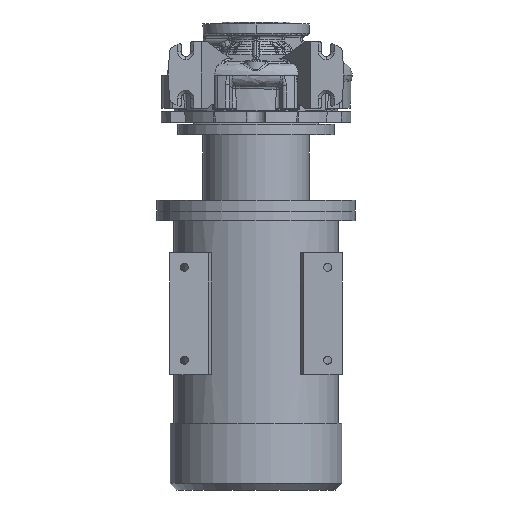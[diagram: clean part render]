
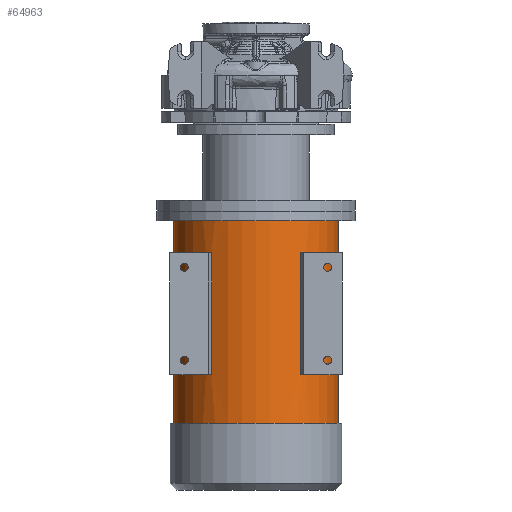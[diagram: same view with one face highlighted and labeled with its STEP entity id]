
A CAD part, front view. The second image highlights one B-rep face of the part: STEP entity #64963.
In plain terms, the highlighted cylindrical face has radius 124.5 mm (diameter 249 mm), a partial arc.
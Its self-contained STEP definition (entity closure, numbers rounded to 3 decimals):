
#746 = DIRECTION ( 'NONE',  ( 0., 0., -1. ) ) ;
#862 = DIRECTION ( 'NONE',  ( 0., 0., 1. ) ) ;
#1845 = DIRECTION ( 'NONE',  ( -1., 0., 0. ) ) ;
#2244 = LINE ( 'NONE', #14990, #48068 ) ;
#2531 = VERTEX_POINT ( 'NONE', #62478 ) ;
#2737 = EDGE_CURVE ( 'NONE', #36674, #21163, #37242, .T. ) ;
#2886 = VERTEX_POINT ( 'NONE', #13954 ) ;
#3118 = DIRECTION ( 'NONE',  ( 1., 0., 0. ) ) ;
#3438 = DIRECTION ( 'NONE',  ( 0., 0., -1. ) ) ;
#4166 = LINE ( 'NONE', #55269, #51640 ) ;
#4749 = CIRCLE ( 'NONE', #48287, 124.5 ) ;
#5179 = DIRECTION ( 'NONE',  ( -1., 0., 0. ) ) ;
#5467 = VECTOR ( 'NONE', #63657, 1000. ) ;
#6624 = ORIENTED_EDGE ( 'NONE', *, *, #27804, .T. ) ;
#7685 = CARTESIAN_POINT ( 'NONE',  ( -124.5, 0., -525.3 ) ) ;
#7838 = VERTEX_POINT ( 'NONE', #66437 ) ;
#8442 = CARTESIAN_POINT ( 'NONE',  ( 124.5, 0., -220.3 ) ) ;
#10624 = CARTESIAN_POINT ( 'NONE',  ( 0., 0., -626.3 ) ) ;
#10751 = DIRECTION ( 'NONE',  ( 0., 0., -1. ) ) ;
#10934 = ORIENTED_EDGE ( 'NONE', *, *, #63069, .T. ) ;
#11449 = VERTEX_POINT ( 'NONE', #7685 ) ;
#11667 = CYLINDRICAL_SURFACE ( 'NONE', #68860, 124.5 ) ;
#11730 = FACE_BOUND ( 'NONE', #24289, .T. ) ;
#11930 = AXIS2_PLACEMENT_3D ( 'NONE', #68408, #3438, #24752 ) ;
#13268 = CARTESIAN_POINT ( 'NONE',  ( -124.5, 0., -220.3 ) ) ;
#13455 = FACE_OUTER_BOUND ( 'NONE', #25175, .T. ) ;
#13954 = CARTESIAN_POINT ( 'NONE',  ( -75.873, -98.709, -268.3 ) ) ;
#14988 = ORIENTED_EDGE ( 'NONE', *, *, #27651, .F. ) ;
#14990 = CARTESIAN_POINT ( 'NONE',  ( 66.829, -105.044, -626.3 ) ) ;
#15549 = CARTESIAN_POINT ( 'NONE',  ( -75.873, -98.709, -452.3 ) ) ;
#15846 = DIRECTION ( 'NONE',  ( 0., 0., -1. ) ) ;
#16797 = CIRCLE ( 'NONE', #40285, 124.5 ) ;
#17448 = DIRECTION ( 'NONE',  ( 0., 0., -1. ) ) ;
#17953 = DIRECTION ( 'NONE',  ( 0., 0., -1. ) ) ;
#17989 = CIRCLE ( 'NONE', #11930, 124.5 ) ;
#21163 = VERTEX_POINT ( 'NONE', #68316 ) ;
#22723 = VERTEX_POINT ( 'NONE', #36508 ) ;
#23135 = EDGE_CURVE ( 'NONE', #21163, #22723, #36041, .T. ) ;
#23969 = CARTESIAN_POINT ( 'NONE',  ( 0., 0., -268.3 ) ) ;
#24289 = EDGE_LOOP ( 'NONE', ( #62110, #6624, #54007, #61715 ) ) ;
#24752 = DIRECTION ( 'NONE',  ( -1., 0., 0. ) ) ;
#25175 = EDGE_LOOP ( 'NONE', ( #55229, #59091, #10934, #58227 ) ) ;
#26128 = FACE_BOUND ( 'NONE', #49926, .T. ) ;
#27087 = CARTESIAN_POINT ( 'NONE',  ( -124.5, 0., -626.3 ) ) ;
#27651 = EDGE_CURVE ( 'NONE', #7838, #22723, #59153, .T. ) ;
#27700 = DIRECTION ( 'NONE',  ( -1., 0., 0. ) ) ;
#27739 = EDGE_CURVE ( 'NONE', #2886, #70107, #64262, .T. ) ;
#27804 = EDGE_CURVE ( 'NONE', #59007, #70107, #16797, .T. ) ;
#28624 = CARTESIAN_POINT ( 'NONE',  ( -66.829, -105.044, -452.3 ) ) ;
#33844 = CARTESIAN_POINT ( 'NONE',  ( 0., 0., -525.3 ) ) ;
#34025 = CARTESIAN_POINT ( 'NONE',  ( 0., 0., -452.3 ) ) ;
#36041 = LINE ( 'NONE', #67754, #5467 ) ;
#36508 = CARTESIAN_POINT ( 'NONE',  ( 75.873, -98.709, -452.3 ) ) ;
#36674 = VERTEX_POINT ( 'NONE', #64100 ) ;
#37064 = CARTESIAN_POINT ( 'NONE',  ( 124.5, 0., -525.3 ) ) ;
#37242 = CIRCLE ( 'NONE', #45039, 124.5 ) ;
#39488 = DIRECTION ( 'NONE',  ( 0., 0., -1. ) ) ;
#39709 = EDGE_CURVE ( 'NONE', #7838, #36674, #2244, .T. ) ;
#40124 = VERTEX_POINT ( 'NONE', #13268 ) ;
#40285 = AXIS2_PLACEMENT_3D ( 'NONE', #60354, #39488, #44522 ) ;
#40352 = DIRECTION ( 'NONE',  ( 0., 0., -1. ) ) ;
#40555 = EDGE_CURVE ( 'NONE', #62287, #11449, #65105, .T. ) ;
#43448 = AXIS2_PLACEMENT_3D ( 'NONE', #34025, #862, #49932 ) ;
#44275 = CARTESIAN_POINT ( 'NONE',  ( -75.873, -98.709, -626.3 ) ) ;
#44394 = DIRECTION ( 'NONE',  ( 0., 0., 1. ) ) ;
#44522 = DIRECTION ( 'NONE',  ( 1., 0., 0. ) ) ;
#45039 = AXIS2_PLACEMENT_3D ( 'NONE', #50011, #55468, #27700 ) ;
#47859 = EDGE_CURVE ( 'NONE', #56317, #40124, #17989, .T. ) ;
#48068 = VECTOR ( 'NONE', #70000, 1000. ) ;
#48287 = AXIS2_PLACEMENT_3D ( 'NONE', #23969, #40352, #3118 ) ;
#48378 = ORIENTED_EDGE ( 'NONE', *, *, #39709, .T. ) ;
#49514 = VECTOR ( 'NONE', #10751, 1000. ) ;
#49668 = AXIS2_PLACEMENT_3D ( 'NONE', #33844, #17953, #1845 ) ;
#49926 = EDGE_LOOP ( 'NONE', ( #14988, #48378, #63498, #54079 ) ) ;
#49932 = DIRECTION ( 'NONE',  ( -1., 0., 0. ) ) ;
#50011 = CARTESIAN_POINT ( 'NONE',  ( 0., 0., -268.3 ) ) ;
#51640 = VECTOR ( 'NONE', #746, 1000. ) ;
#53420 = VECTOR ( 'NONE', #44394, 1000. ) ;
#54007 = ORIENTED_EDGE ( 'NONE', *, *, #27739, .F. ) ;
#54060 = EDGE_CURVE ( 'NONE', #56317, #62287, #4166, .T. ) ;
#54079 = ORIENTED_EDGE ( 'NONE', *, *, #23135, .T. ) ;
#54223 = LINE ( 'NONE', #55726, #53420 ) ;
#54998 = EDGE_CURVE ( 'NONE', #2531, #2886, #4749, .T. ) ;
#55229 = ORIENTED_EDGE ( 'NONE', *, *, #54060, .F. ) ;
#55269 = CARTESIAN_POINT ( 'NONE',  ( 124.5, 0., -626.3 ) ) ;
#55468 = DIRECTION ( 'NONE',  ( 0., 0., 1. ) ) ;
#55726 = CARTESIAN_POINT ( 'NONE',  ( -66.829, -105.044, -626.3 ) ) ;
#56317 = VERTEX_POINT ( 'NONE', #8442 ) ;
#58227 = ORIENTED_EDGE ( 'NONE', *, *, #40555, .F. ) ;
#59007 = VERTEX_POINT ( 'NONE', #28624 ) ;
#59091 = ORIENTED_EDGE ( 'NONE', *, *, #47859, .T. ) ;
#59153 = CIRCLE ( 'NONE', #43448, 124.5 ) ;
#60054 = VECTOR ( 'NONE', #17448, 1000. ) ;
#60354 = CARTESIAN_POINT ( 'NONE',  ( 0., 0., -452.3 ) ) ;
#61715 = ORIENTED_EDGE ( 'NONE', *, *, #54998, .F. ) ;
#62110 = ORIENTED_EDGE ( 'NONE', *, *, #64604, .F. ) ;
#62287 = VERTEX_POINT ( 'NONE', #37064 ) ;
#62478 = CARTESIAN_POINT ( 'NONE',  ( -66.829, -105.044, -268.3 ) ) ;
#63069 = EDGE_CURVE ( 'NONE', #40124, #11449, #66426, .T. ) ;
#63498 = ORIENTED_EDGE ( 'NONE', *, *, #2737, .T. ) ;
#63657 = DIRECTION ( 'NONE',  ( 0., 0., -1. ) ) ;
#64100 = CARTESIAN_POINT ( 'NONE',  ( 66.829, -105.044, -268.3 ) ) ;
#64262 = LINE ( 'NONE', #44275, #60054 ) ;
#64604 = EDGE_CURVE ( 'NONE', #59007, #2531, #54223, .T. ) ;
#64963 = ADVANCED_FACE ( 'NONE', ( #13455, #26128, #11730 ), #11667, .T. ) ;
#65105 = CIRCLE ( 'NONE', #49668, 124.5 ) ;
#66426 = LINE ( 'NONE', #27087, #49514 ) ;
#66437 = CARTESIAN_POINT ( 'NONE',  ( 66.829, -105.044, -452.3 ) ) ;
#67754 = CARTESIAN_POINT ( 'NONE',  ( 75.873, -98.709, -626.3 ) ) ;
#68316 = CARTESIAN_POINT ( 'NONE',  ( 75.873, -98.709, -268.3 ) ) ;
#68408 = CARTESIAN_POINT ( 'NONE',  ( 0., 0., -220.3 ) ) ;
#68860 = AXIS2_PLACEMENT_3D ( 'NONE', #10624, #15846, #5179 ) ;
#70000 = DIRECTION ( 'NONE',  ( 0., 0., 1. ) ) ;
#70107 = VERTEX_POINT ( 'NONE', #15549 ) ;
